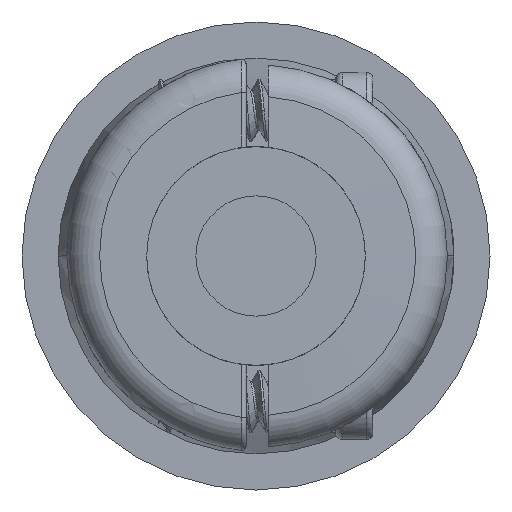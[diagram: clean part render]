
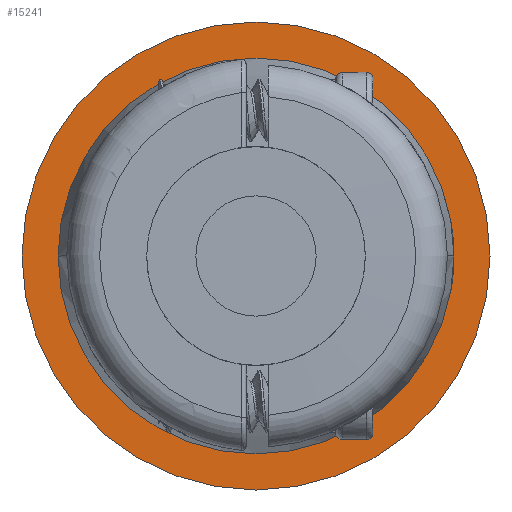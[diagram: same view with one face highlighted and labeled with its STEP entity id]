
A CAD part, front view. The second image highlights one B-rep face of the part: STEP entity #15241.
In plain terms, the highlighted planar face has unit normal (0, -1, 0).
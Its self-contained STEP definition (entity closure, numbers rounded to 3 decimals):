
#2479=CARTESIAN_POINT('',(0.,-1.86,0.));
#2480=DIRECTION('',(0.,1.,0.));
#2481=DIRECTION('',(1.,0.,0.));
#2482=AXIS2_PLACEMENT_3D('',#2479,#2480,#2481);
#2484=CARTESIAN_POINT('',(0.,-1.86,0.));
#2485=DIRECTION('',(0.,1.,0.));
#2486=DIRECTION('',(-1.,0.,0.));
#2487=AXIS2_PLACEMENT_3D('',#2484,#2485,#2486);
#2489=CARTESIAN_POINT('',(0.,-1.86,0.));
#2490=DIRECTION('',(0.,-1.,0.));
#2491=DIRECTION('',(1.,0.,0.));
#2492=AXIS2_PLACEMENT_3D('',#2489,#2490,#2491);
#2494=CARTESIAN_POINT('',(0.,-1.86,0.));
#2495=DIRECTION('',(0.,-1.,0.));
#2496=DIRECTION('',(-1.,0.,0.));
#2497=AXIS2_PLACEMENT_3D('',#2494,#2495,#2496);
#11438=CARTESIAN_POINT('',(7.3,-1.86,0.));
#11439=CARTESIAN_POINT('',(-7.3,-1.86,0.));
#11440=VERTEX_POINT('',#11438);
#11441=VERTEX_POINT('',#11439);
#11442=CARTESIAN_POINT('',(10.7,-1.86,0.));
#11443=CARTESIAN_POINT('',(-10.7,-1.86,0.));
#11444=VERTEX_POINT('',#11442);
#11445=VERTEX_POINT('',#11443);
#15225=CARTESIAN_POINT('',(0.,-1.86,0.));
#15226=DIRECTION('',(0.,1.,0.));
#15227=DIRECTION('',(0.,0.,1.));
#15228=AXIS2_PLACEMENT_3D('',#15225,#15226,#15227);
#15229=PLANE('',#15228);
#15231=ORIENTED_EDGE('',*,*,#15230,.T.);
#15233=ORIENTED_EDGE('',*,*,#15232,.T.);
#15234=EDGE_LOOP('',(#15231,#15233));
#15235=FACE_OUTER_BOUND('',#15234,.F.);
#15236=ORIENTED_EDGE('',*,*,#15215,.T.);
#15238=ORIENTED_EDGE('',*,*,#15237,.T.);
#15239=EDGE_LOOP('',(#15236,#15238));
#15240=FACE_BOUND('',#15239,.F.);
#15241=ADVANCED_FACE('',(#15235,#15240),#15229,.F.);
#2483=CIRCLE('',#2482,10.7);
#2488=CIRCLE('',#2487,10.7);
#2493=CIRCLE('',#2492,7.3);
#2498=CIRCLE('',#2497,7.3);
#15215=EDGE_CURVE('',#11440,#11441,#2493,.T.);
#15230=EDGE_CURVE('',#11444,#11445,#2483,.T.);
#15232=EDGE_CURVE('',#11445,#11444,#2488,.T.);
#15237=EDGE_CURVE('',#11441,#11440,#2498,.T.);
